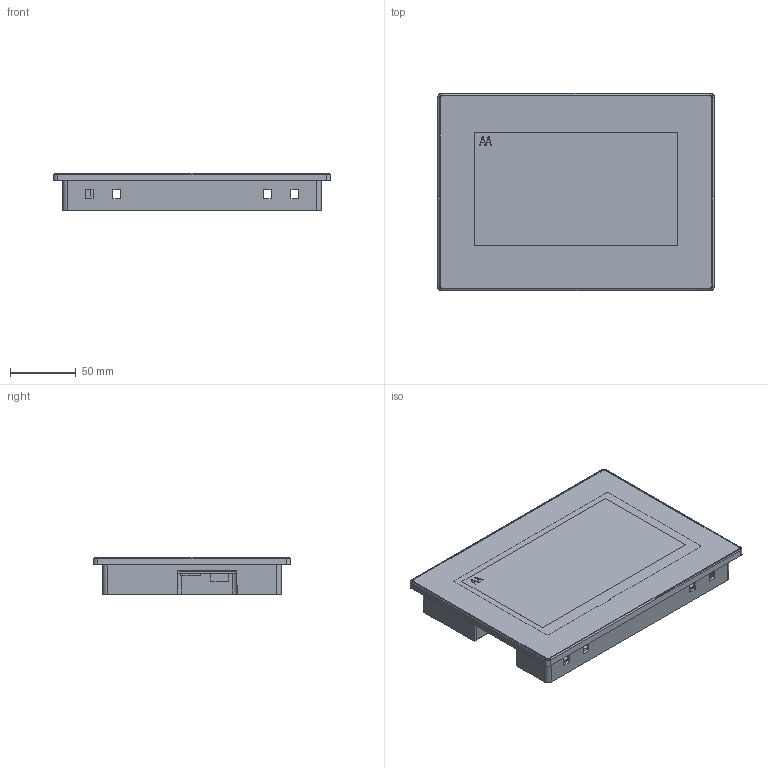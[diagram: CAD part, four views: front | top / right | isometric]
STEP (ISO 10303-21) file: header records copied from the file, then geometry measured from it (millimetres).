
FILE_DESCRIPTION(/* description */ (''),/* implementation_level */ '2;1');
FILE_NAME(/* name */ 'VTc070S14ABT.stp',/* time_stamp */ '2025-02-08T15:51:38+08:00',/* author */ (''),/* organization */ (''),/* preprocessor_version */ 'ST-DEVELOPER v16',/* originating_system */ 'SIEMENS PLM Software NX 10.0',/* authorisation */ '');
FILE_SCHEMA (('AP203_CONFIGURATION_CONTROLLED_3D_DESIGN_OF_MECHANICAL_PARTS_AND_ASSEMBLIES_MIM_LF { 1 0 10303 403 2 1 2}'));
Length unit declared in the file: millimetre
Products named in the file (1): VTc070S14ABT
Bounding box: 210 x 149.5 x 28.4 mm (x, y, z)
Volume: 179607.6 mm3; surface area: 255713.5 mm2
Topology: 10 solids, 10 shells, 824 faces, 2266 edges, 1488 vertices
Faces by surface type: plane 503, cone 210, cylinder 79, torus 16, bspline 12, extrusion 4
Full cylindrical faces by diameter (mm): 2.6 x6, 2.8 x4, 7.5 x6
Entity records: 27359 total; most frequent: CARTESIAN_POINT 5576, ORIENTED_EDGE 4498, DIRECTION 4343, EDGE_CURVE 2249, VECTOR 1541, LINE 1537, VERTEX_POINT 1488, AXIS2_PLACEMENT_3D 1401
